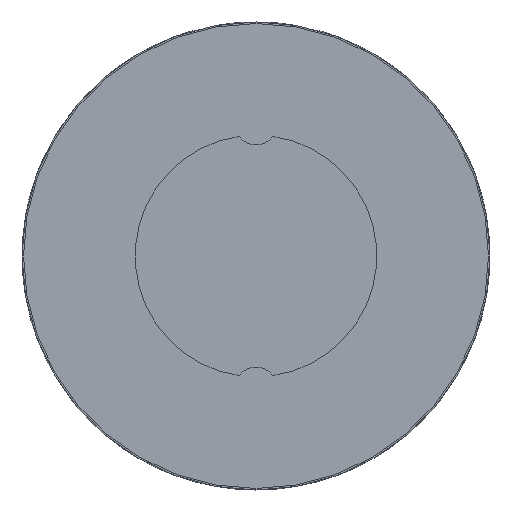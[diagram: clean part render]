
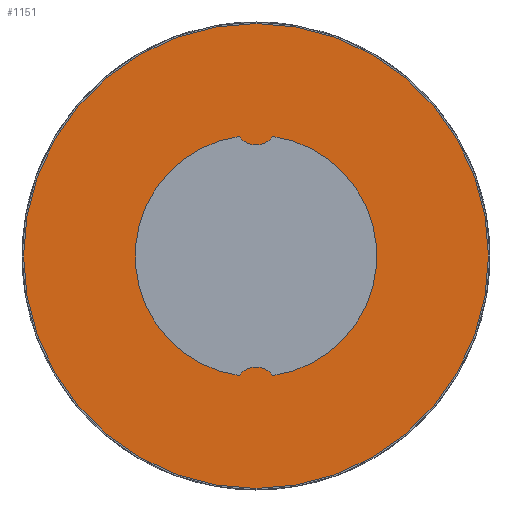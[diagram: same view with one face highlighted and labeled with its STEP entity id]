
A CAD part, left-side view. The second image highlights one B-rep face of the part: STEP entity #1151.
In plain terms, the highlighted planar face has unit normal (-1, 0, 0).
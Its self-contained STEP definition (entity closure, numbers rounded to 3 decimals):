
#812=CARTESIAN_POINT('',(0.0,-1.116,7.922));
#813=VERTEX_POINT('',#812);
#820=CARTESIAN_POINT('',(0.0,1.116,7.922));
#821=VERTEX_POINT('',#820);
#822=CARTESIAN_POINT('',(0.0,0.,8.749));
#823=DIRECTION('',(1.,0.0,0.0));
#824=DIRECTION('',(0.0,-0.803,-0.596));
#825=AXIS2_PLACEMENT_3D('',#822,#823,#824);
#826=CIRCLE('',#825,1.389);
#827=EDGE_CURVE('',#813,#821,#826,.T.);
#854=CARTESIAN_POINT('',(0.0,1.116,-7.922));
#855=VERTEX_POINT('',#854);
#862=CARTESIAN_POINT('',(0.0,-1.116,-7.922));
#863=VERTEX_POINT('',#862);
#864=CARTESIAN_POINT('',(0.0,0.,-8.749));
#865=DIRECTION('',(1.,0.0,0.0));
#866=DIRECTION('',(0.0,0.803,0.596));
#867=AXIS2_PLACEMENT_3D('',#864,#865,#866);
#868=CIRCLE('',#867,1.389);
#869=EDGE_CURVE('',#855,#863,#868,.T.);
#886=CARTESIAN_POINT('',(0.,0.0,0.));
#887=DIRECTION('',(-1.0,0.0,0.0));
#888=DIRECTION('',(0.0,0.0,1.0));
#889=AXIS2_PLACEMENT_3D('',#886,#887,#888);
#890=CIRCLE('',#889,8.);
#891=EDGE_CURVE('',#821,#855,#890,.T.);
#918=CARTESIAN_POINT('',(0.,0.0,0.));
#919=DIRECTION('',(-1.0,0.0,0.0));
#920=DIRECTION('',(0.0,0.0,1.0));
#921=AXIS2_PLACEMENT_3D('',#918,#919,#920);
#922=CIRCLE('',#921,8.);
#923=EDGE_CURVE('',#863,#813,#922,.T.);
#1122=CARTESIAN_POINT('',(0.0,0.0,15.4));
#1123=VERTEX_POINT('',#1122);
#1124=CARTESIAN_POINT('',(0.,0.0,0.));
#1125=DIRECTION('',(-1.0,0.0,0.0));
#1126=DIRECTION('',(0.0,0.0,1.0));
#1127=AXIS2_PLACEMENT_3D('',#1124,#1125,#1126);
#1128=CIRCLE('',#1127,15.4);
#1129=EDGE_CURVE('',#1123,#1123,#1128,.T.);
#1137=CARTESIAN_POINT('',(0.0,0.0,11.7));
#1138=DIRECTION('',(-1.0,0.0,0.0));
#1139=DIRECTION('',(0.0,0.0,1.0));
#1140=AXIS2_PLACEMENT_3D('',#1137,#1138,#1139);
#1141=PLANE('',#1140);
#1142=ORIENTED_EDGE('',*,*,#1129,.T.);
#1143=EDGE_LOOP('',(#1142));
#1144=FACE_OUTER_BOUND('',#1143,.T.);
#1145=ORIENTED_EDGE('',*,*,#923,.F.);
#1146=ORIENTED_EDGE('',*,*,#869,.F.);
#1147=ORIENTED_EDGE('',*,*,#891,.F.);
#1148=ORIENTED_EDGE('',*,*,#827,.F.);
#1149=EDGE_LOOP('',(#1145,#1146,#1147,#1148));
#1150=FACE_BOUND('',#1149,.T.);
#1151=ADVANCED_FACE('',(#1144,#1150),#1141,.T.);
